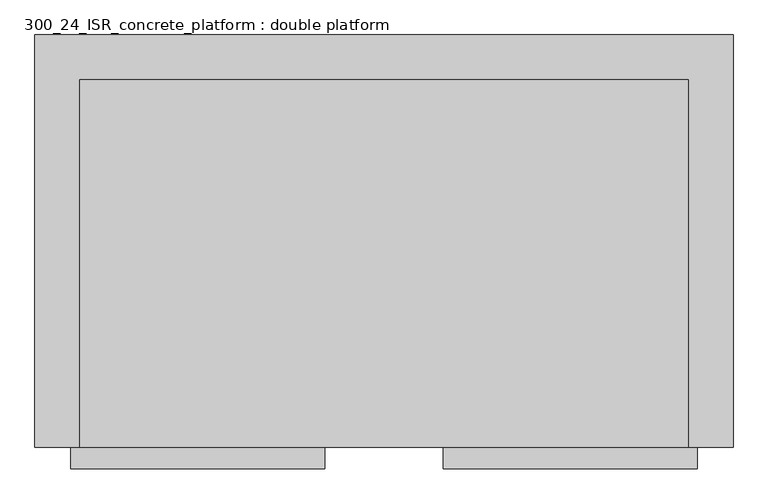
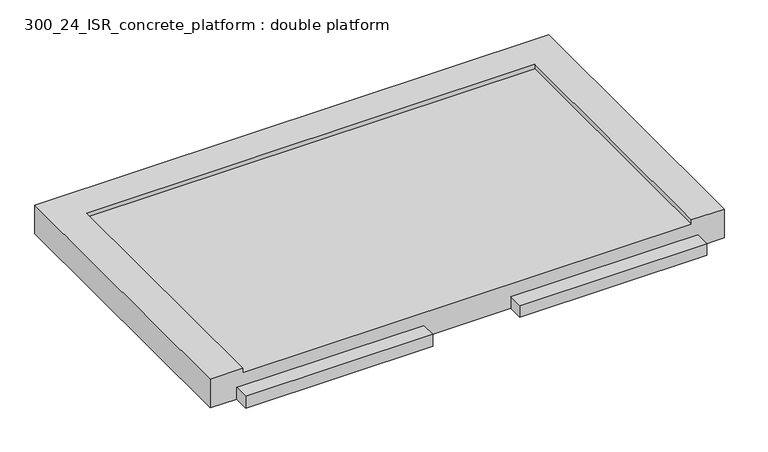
"""IFC4 building model written with IfcOpenShell, lengths in millimetres: proxy geometry, 300_24_ISR_concrete_platform : double platform."""

from ifc_helpers import new_model, si_unit, origin, place, context, project, spatial, faceted_brep, source, transform, mapped, element, save


def proxy_300_24_isr_concrete_platform_double_platform_9cdc8692(model_context):
    return source(origin(), model_context, "Body", "Brep", [
        faceted_brep([(60.0, -1800.0, 0.0), (2940.0, -1800.0, 0.0), (2940.0, -60.0, 0.0), (60.0, -60.0, 0.0), (3150.0, 150.0, -165.0), (3150.0, -1800.0, -165.0), (2980.0, -1800.0, -165.0), (2980.0, -1900.0, -165.0), (1780.0, -1900.0, -165.0), (1780.0, -1800.0, -165.0), (1220.0, -1800.0, -165.0), (1220.0, -1900.0, -165.0), (20.0, -1900.0, -165.0), (20.0, -1800.0, -165.0), (-150.0, -1800.0, -165.0), (-150.0, 150.0, -165.0), (-150.0, 150.0, 30.0), (3150.0, 150.0, 30.0), (-150.0, -1800.0, 30.0), (20.0, -1800.0, -85.0), (1220.0, -1800.0, -85.0), (1780.0, -1800.0, -85.0), (2980.0, -1800.0, -85.0), (3150.0, -1800.0, 30.0), (2940.0, -1800.0, 30.0), (60.0, -1800.0, 30.0), (1780.0, -1900.0, -85.0), (2980.0, -1900.0, -85.0), (1220.0, -1900.0, -85.0), (20.0, -1900.0, -85.0), (60.0, -60.0, 30.0), (2940.0, -60.0, 30.0)], [[[0, 1, 2, 3]], [[4, 5, 6, 7, 8, 9, 10, 11, 12, 13, 14, 15]], [[4, 15, 16, 17]], [[16, 15, 14, 18]], [[18, 14, 13, 19, 20, 10, 9, 21, 22, 6, 5, 23, 24, 1, 0, 25]], [[23, 5, 4, 17]], [[21, 26, 27, 22]], [[26, 21, 9, 8]], [[27, 26, 8, 7]], [[22, 27, 7, 6]], [[28, 20, 19, 29]], [[20, 28, 11, 10]], [[29, 19, 13, 12]], [[28, 29, 12, 11]], [[25, 0, 3, 30]], [[18, 25, 30, 31, 24, 23, 17, 16]], [[30, 3, 2, 31]], [[24, 31, 2, 1]]]),
    ])


if __name__ == "__main__":
    model = new_model("IFC4")
    model_context = context("Model", 3, world=origin())
    ifc_project = project(units=[si_unit("LENGTHUNIT", "METRE", prefix="MILLI")], contexts=[model_context])
    site = spatial("IfcSite", under=ifc_project)
    building = spatial("IfcBuilding", under=site)
    placement = place(None, origin())
    proxy_300_24_isr_concrete_platform_double_platform_shape = proxy_300_24_isr_concrete_platform_double_platform_9cdc8692(model_context)
    element("IfcBuildingElementProxy", 1, Name="300_24_ISR_concrete_platform : double platform", ObjectType="300_24_ISR_concrete_platform : double platform", at=placement, inside=building, context=model_context, shape_type="MappedRepresentation", body=[
        mapped(proxy_300_24_isr_concrete_platform_double_platform_shape, transform((0.0, 0.0, 0.0), x_axis=(1.0, 0.0, 0.0), y_axis=(0.0, 1.0, 0.0), z_axis=(0.0, 0.0, 1.0))),
    ])
    save(model, "model.ifc")
